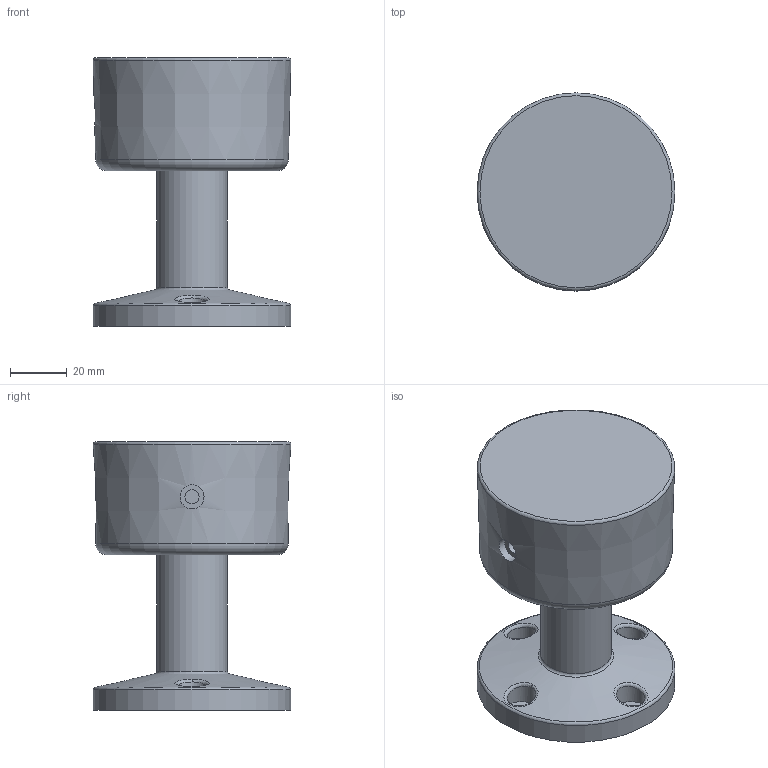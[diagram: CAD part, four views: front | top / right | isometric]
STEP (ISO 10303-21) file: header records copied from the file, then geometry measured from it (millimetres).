
FILE_DESCRIPTION(('STEP AP214'), '1');
FILE_NAME('扻豵鵨', '', ('UNSPECIFIED'), ('UNSPECIFIED'), 'C3D Converter', 'C3D Toolkit', '');
FILE_SCHEMA(('AUTOMOTIVE_DESIGN { 1 0 10303 214 3 1 1}'));
Length unit declared in the file: millimetre
Bounding box: 70 x 70 x 95 mm (x, y, z)
Volume: 154164 mm3; surface area: 42328.9 mm2
Topology: 1 solids, 1 shells, 136 faces, 372 edges, 245 vertices
Faces by surface type: plane 79, cylinder 21, torus 16, cone 15, bspline 5
Full cylindrical faces by diameter (mm): 5 x1, 5.6 x4, 8.5 x1, 10 x4, 20 x1, 25 x1, 70 x1
Entity records: 8123 total; most frequent: CARTESIAN_POINT 3733, ORIENTED_EDGE 688, DIRECTION 622, EDGE_CURVE 344, VERTEX_POINT 242, AXIS2_PLACEMENT_3D 227, EDGE_LOOP 176, LINE 168
